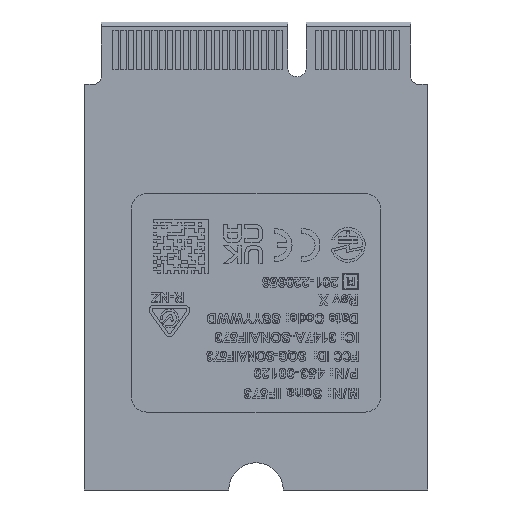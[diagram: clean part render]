
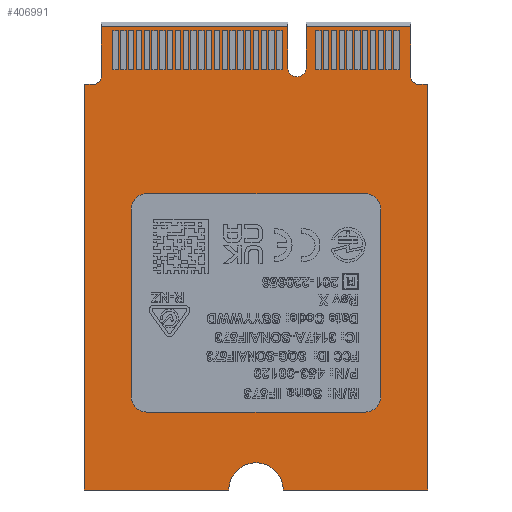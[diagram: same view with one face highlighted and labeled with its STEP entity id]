
A CAD part, front view. The second image highlights one B-rep face of the part: STEP entity #406991.
In plain terms, the highlighted planar face has unit normal (0, -1, 0).
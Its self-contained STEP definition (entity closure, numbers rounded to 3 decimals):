
#9996 = VECTOR ( 'NONE', #118403, 1000. ) ;
#12722 = CARTESIAN_POINT ( 'NONE',  ( 11., 0., -15. ) ) ;
#19833 = VECTOR ( 'NONE', #356338, 1000. ) ;
#21690 = EDGE_CURVE ( 'NONE', #403799, #517984, #50145, .T. ) ;
#27655 = EDGE_CURVE ( 'NONE', #317999, #262805, #36252, .T. ) ;
#34015 = AXIS2_PLACEMENT_3D ( 'NONE', #360920, #541207, #305093 ) ;
#36252 = LINE ( 'NONE', #296440, #349671 ) ;
#46172 = LINE ( 'NONE', #489508, #458213 ) ;
#46520 = DIRECTION ( 'NONE',  ( 1., 0., 0. ) ) ;
#49396 = CARTESIAN_POINT ( 'NONE',  ( 3.225, 0., 12.1 ) ) ;
#50145 = LINE ( 'NONE', #496293, #413252 ) ;
#55094 = EDGE_LOOP ( 'NONE', ( #264239, #91245, #106184, #457656, #577883, #325344, #521781, #84477, #546816, #512167, #307243, #301963, #172172, #305956, #74285, #382851 ) ) ;
#59004 = CARTESIAN_POINT ( 'NONE',  ( -10.425, 0., 11. ) ) ;
#63701 = CARTESIAN_POINT ( 'NONE',  ( 9.925, 0., 14.7 ) ) ;
#68944 = DIRECTION ( 'NONE',  ( 0., 0., -1. ) ) ;
#69563 = DIRECTION ( 'NONE',  ( -1., 0., 0.003 ) ) ;
#69845 = VERTEX_POINT ( 'NONE', #483454 ) ;
#74285 = ORIENTED_EDGE ( 'NONE', *, *, #289933, .F. ) ;
#84219 = CARTESIAN_POINT ( 'NONE',  ( -10.423, 0., 11.498 ) ) ;
#84477 = ORIENTED_EDGE ( 'NONE', *, *, #393514, .F. ) ;
#90921 = CARTESIAN_POINT ( 'NONE',  ( 0., 0., -15. ) ) ;
#91245 = ORIENTED_EDGE ( 'NONE', *, *, #445947, .F. ) ;
#93818 = DIRECTION ( 'NONE',  ( -1., 0., 0. ) ) ;
#96729 = CARTESIAN_POINT ( 'NONE',  ( -1.75, 0., -15. ) ) ;
#106184 = ORIENTED_EDGE ( 'NONE', *, *, #21690, .F. ) ;
#110786 = VECTOR ( 'NONE', #346180, 1000. ) ;
#118403 = DIRECTION ( 'NONE',  ( -1., 0., 0. ) ) ;
#131384 = VECTOR ( 'NONE', #495340, 1000. ) ;
#135249 = CARTESIAN_POINT ( 'NONE',  ( -9.925, 0., 11.5 ) ) ;
#137762 = VECTOR ( 'NONE', #582229, 1000. ) ;
#147399 = EDGE_CURVE ( 'NONE', #168857, #518382, #270561, .T. ) ;
#152205 = EDGE_CURVE ( 'NONE', #450656, #513319, #327722, .T. ) ;
#159823 = DIRECTION ( 'NONE',  ( 0., 0., -1. ) ) ;
#165937 = CARTESIAN_POINT ( 'NONE',  ( -11., 0., 14.7 ) ) ;
#168857 = VERTEX_POINT ( 'NONE', #517851 ) ;
#168917 = LINE ( 'NONE', #165937, #110786 ) ;
#172172 = ORIENTED_EDGE ( 'NONE', *, *, #347987, .F. ) ;
#172839 = DIRECTION ( 'NONE',  ( 0., -1., 0. ) ) ;
#176867 = VECTOR ( 'NONE', #93818, 1000. ) ;
#183203 = AXIS2_PLACEMENT_3D ( 'NONE', #90921, #451299, #46520 ) ;
#188318 = LINE ( 'NONE', #96729, #176867 ) ;
#189569 = VERTEX_POINT ( 'NONE', #135249 ) ;
#196876 = CARTESIAN_POINT ( 'NONE',  ( 9.925, 0., 11.5 ) ) ;
#204110 = CARTESIAN_POINT ( 'NONE',  ( 11., 0., -15. ) ) ;
#213236 = VERTEX_POINT ( 'NONE', #429111 ) ;
#215340 = DIRECTION ( 'NONE',  ( 1., 0., 0. ) ) ;
#217674 = DIRECTION ( 'NONE',  ( 1., 0., 0. ) ) ;
#221297 = VECTOR ( 'NONE', #159823, 1000. ) ;
#226958 = EDGE_CURVE ( 'NONE', #213236, #549386, #564746, .T. ) ;
#232052 = CARTESIAN_POINT ( 'NONE',  ( -11., 0., 11. ) ) ;
#238732 = CARTESIAN_POINT ( 'NONE',  ( -1.75, 0., -15. ) ) ;
#240652 = DIRECTION ( 'NONE',  ( 0., 1., 0. ) ) ;
#241167 = VECTOR ( 'NONE', #370911, 1000. ) ;
#256763 = EDGE_CURVE ( 'NONE', #551389, #317999, #168917, .T. ) ;
#262805 = VERTEX_POINT ( 'NONE', #337503 ) ;
#264239 = ORIENTED_EDGE ( 'NONE', *, *, #510626, .F. ) ;
#269901 = CARTESIAN_POINT ( 'NONE',  ( -9.925, 0., 14.7 ) ) ;
#270561 = LINE ( 'NONE', #232052, #364505 ) ;
#271742 = DIRECTION ( 'NONE',  ( 0., 0., 1. ) ) ;
#273665 = CARTESIAN_POINT ( 'NONE',  ( 10.425, 0., 11. ) ) ;
#279276 = CARTESIAN_POINT ( 'NONE',  ( 0.15, 0., 0.404 ) ) ;
#289933 = EDGE_CURVE ( 'NONE', #513319, #213236, #504141, .T. ) ;
#291280 = DIRECTION ( 'NONE',  ( 0., -1., 0. ) ) ;
#296440 = CARTESIAN_POINT ( 'NONE',  ( 2.025, 0., 15. ) ) ;
#297024 = VERTEX_POINT ( 'NONE', #63701 ) ;
#301533 = LINE ( 'NONE', #204110, #9996 ) ;
#301963 = ORIENTED_EDGE ( 'NONE', *, *, #580396, .T. ) ;
#305093 = DIRECTION ( 'NONE',  ( -1., 0., 0. ) ) ;
#305956 = ORIENTED_EDGE ( 'NONE', *, *, #226958, .F. ) ;
#307243 = ORIENTED_EDGE ( 'NONE', *, *, #507211, .F. ) ;
#315150 = CIRCLE ( 'NONE', #183203, 1.75 ) ;
#317999 = VERTEX_POINT ( 'NONE', #573417 ) ;
#318240 = CARTESIAN_POINT ( 'NONE',  ( 3.225, 0., 14.7 ) ) ;
#319086 = CARTESIAN_POINT ( 'NONE',  ( 9.925, 0., 15. ) ) ;
#325344 = ORIENTED_EDGE ( 'NONE', *, *, #256763, .F. ) ;
#327722 = CIRCLE ( 'NONE', #507002, 0.498 ) ;
#337503 = CARTESIAN_POINT ( 'NONE',  ( 2.025, 0., 12.1 ) ) ;
#338204 = CIRCLE ( 'NONE', #413867, 0.498 ) ;
#346180 = DIRECTION ( 'NONE',  ( 1., 0., 0. ) ) ;
#347987 = EDGE_CURVE ( 'NONE', #549386, #439345, #301533, .T. ) ;
#349671 = VECTOR ( 'NONE', #68944, 1000. ) ;
#356338 = DIRECTION ( 'NONE',  ( 0., 0., 1. ) ) ;
#360920 = CARTESIAN_POINT ( 'NONE',  ( 2.625, 0., 12.1 ) ) ;
#362143 = CARTESIAN_POINT ( 'NONE',  ( -11., 0., -15. ) ) ;
#364505 = VECTOR ( 'NONE', #215340, 1000. ) ;
#370911 = DIRECTION ( 'NONE',  ( 0., 0., 1. ) ) ;
#382119 = EDGE_CURVE ( 'NONE', #189569, #551389, #400841, .T. ) ;
#382851 = ORIENTED_EDGE ( 'NONE', *, *, #152205, .F. ) ;
#386017 = CARTESIAN_POINT ( 'NONE',  ( 10.425, 0., 11. ) ) ;
#393514 = EDGE_CURVE ( 'NONE', #518382, #189569, #338204, .T. ) ;
#400841 = LINE ( 'NONE', #492363, #19833 ) ;
#403799 = VERTEX_POINT ( 'NONE', #49396 ) ;
#406991 = ADVANCED_FACE ( 'NONE', ( #559664 ), #550964, .F. ) ;
#413252 = VECTOR ( 'NONE', #271742, 1000. ) ;
#413867 = AXIS2_PLACEMENT_3D ( 'NONE', #84219, #172839, #533288 ) ;
#429111 = CARTESIAN_POINT ( 'NONE',  ( 11., 0., 11. ) ) ;
#439345 = VERTEX_POINT ( 'NONE', #580545 ) ;
#440531 = CARTESIAN_POINT ( 'NONE',  ( 11., 0., 11. ) ) ;
#445947 = EDGE_CURVE ( 'NONE', #517984, #297024, #46172, .T. ) ;
#450656 = VERTEX_POINT ( 'NONE', #196876 ) ;
#451299 = DIRECTION ( 'NONE',  ( 0., 1., 0. ) ) ;
#457656 = ORIENTED_EDGE ( 'NONE', *, *, #540107, .F. ) ;
#457981 = AXIS2_PLACEMENT_3D ( 'NONE', #279276, #240652, #503816 ) ;
#458213 = VECTOR ( 'NONE', #217674, 1000. ) ;
#467491 = VERTEX_POINT ( 'NONE', #238732 ) ;
#474244 = CARTESIAN_POINT ( 'NONE',  ( 10.423, 0., 11.498 ) ) ;
#480598 = LINE ( 'NONE', #362143, #241167 ) ;
#481685 = EDGE_CURVE ( 'NONE', #69845, #168857, #480598, .T. ) ;
#483454 = CARTESIAN_POINT ( 'NONE',  ( -11., 0., -15. ) ) ;
#489508 = CARTESIAN_POINT ( 'NONE',  ( -11., 0., 14.7 ) ) ;
#492363 = CARTESIAN_POINT ( 'NONE',  ( -9.925, 0., 11.5 ) ) ;
#495340 = DIRECTION ( 'NONE',  ( 1., 0., 0. ) ) ;
#496293 = CARTESIAN_POINT ( 'NONE',  ( 3.225, 0., 12.1 ) ) ;
#503816 = DIRECTION ( 'NONE',  ( 1., 0., 0. ) ) ;
#504141 = LINE ( 'NONE', #273665, #131384 ) ;
#507002 = AXIS2_PLACEMENT_3D ( 'NONE', #474244, #291280, #69563 ) ;
#507211 = EDGE_CURVE ( 'NONE', #467491, #69845, #188318, .T. ) ;
#510626 = EDGE_CURVE ( 'NONE', #297024, #450656, #549476, .T. ) ;
#512167 = ORIENTED_EDGE ( 'NONE', *, *, #481685, .F. ) ;
#513319 = VERTEX_POINT ( 'NONE', #386017 ) ;
#517851 = CARTESIAN_POINT ( 'NONE',  ( -11., 0., 11. ) ) ;
#517984 = VERTEX_POINT ( 'NONE', #318240 ) ;
#518382 = VERTEX_POINT ( 'NONE', #59004 ) ;
#521781 = ORIENTED_EDGE ( 'NONE', *, *, #382119, .F. ) ;
#533288 = DIRECTION ( 'NONE',  ( -0.003, 0., -1. ) ) ;
#540107 = EDGE_CURVE ( 'NONE', #262805, #403799, #543432, .T. ) ;
#541207 = DIRECTION ( 'NONE',  ( 0., -1., 0. ) ) ;
#543432 = CIRCLE ( 'NONE', #34015, 0.6 ) ;
#546816 = ORIENTED_EDGE ( 'NONE', *, *, #147399, .F. ) ;
#549386 = VERTEX_POINT ( 'NONE', #12722 ) ;
#549476 = LINE ( 'NONE', #319086, #137762 ) ;
#550964 = PLANE ( 'NONE',  #457981 ) ;
#551389 = VERTEX_POINT ( 'NONE', #269901 ) ;
#559664 = FACE_OUTER_BOUND ( 'NONE', #55094, .T. ) ;
#564746 = LINE ( 'NONE', #440531, #221297 ) ;
#573417 = CARTESIAN_POINT ( 'NONE',  ( 2.025, 0., 14.7 ) ) ;
#577883 = ORIENTED_EDGE ( 'NONE', *, *, #27655, .F. ) ;
#580396 = EDGE_CURVE ( 'NONE', #467491, #439345, #315150, .T. ) ;
#580545 = CARTESIAN_POINT ( 'NONE',  ( 1.75, 0., -15. ) ) ;
#582229 = DIRECTION ( 'NONE',  ( 0., 0., -1. ) ) ;
